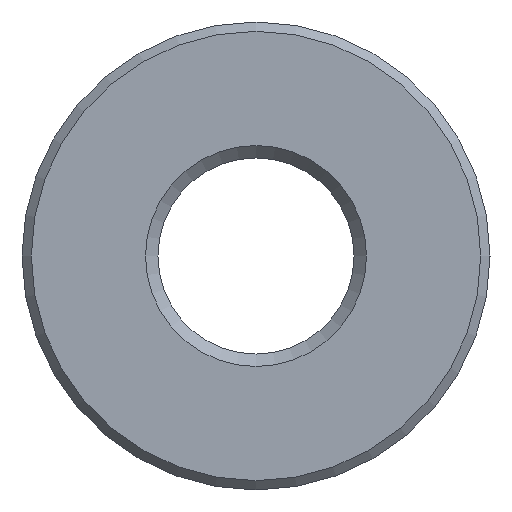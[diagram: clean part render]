
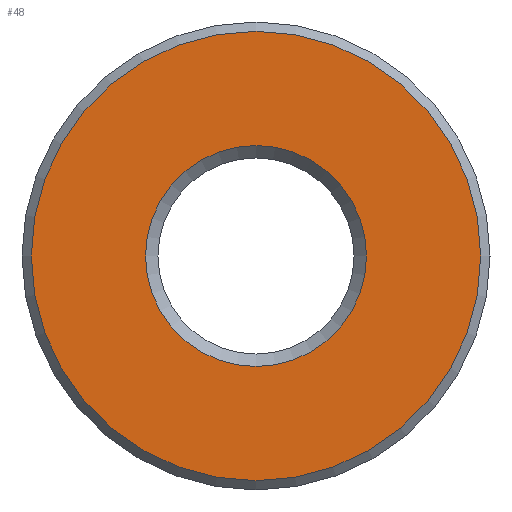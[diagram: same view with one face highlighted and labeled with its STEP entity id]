
A CAD part, left-side view. The second image highlights one B-rep face of the part: STEP entity #48.
In plain terms, the highlighted planar face has unit normal (-1, 0, 0).
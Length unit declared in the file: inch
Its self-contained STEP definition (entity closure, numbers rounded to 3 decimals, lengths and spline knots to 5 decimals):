
#48 = ADVANCED_FACE( '', ( #101, #102 ), #103, .F. );
#101 = FACE_OUTER_BOUND( '', #156, .T. );
#102 = FACE_BOUND( '', #157, .T. );
#103 = PLANE( '', #158 );
#156 = EDGE_LOOP( '', ( #217 ) );
#157 = EDGE_LOOP( '', ( #218 ) );
#158 = AXIS2_PLACEMENT_3D( '', #219, #220, #221 );
#217 = ORIENTED_EDGE( '', *, *, #267, .F. );
#218 = ORIENTED_EDGE( '', *, *, #268, .T. );
#219 = CARTESIAN_POINT( '', ( 0., 0., 0. ) );
#220 = DIRECTION( '', ( 1., 0., 0. ) );
#221 = DIRECTION( '', ( 0., 0., -1. ) );
#267 = EDGE_CURVE( '', #299, #299, #300, .T. );
#268 = EDGE_CURVE( '', #301, #301, #302, .T. );
#299 = VERTEX_POINT( '', #335 );
#300 = CIRCLE( '', #336, 0.36098 );
#301 = VERTEX_POINT( '', #337 );
#302 = CIRCLE( '', #338, 0.17748 );
#335 = CARTESIAN_POINT( '', ( 0., 0., -0.36098 ) );
#336 = AXIS2_PLACEMENT_3D( '', #372, #373, #374 );
#337 = CARTESIAN_POINT( '', ( 0., 0., -0.17748 ) );
#338 = AXIS2_PLACEMENT_3D( '', #375, #376, #377 );
#372 = CARTESIAN_POINT( '', ( 0., 0., 0. ) );
#373 = DIRECTION( '', ( 1., 0., 0. ) );
#374 = DIRECTION( '', ( 0., 0., -1. ) );
#375 = CARTESIAN_POINT( '', ( 0., 0., 0. ) );
#376 = DIRECTION( '', ( 1., 0., 0. ) );
#377 = DIRECTION( '', ( 0., 0., -1. ) );
